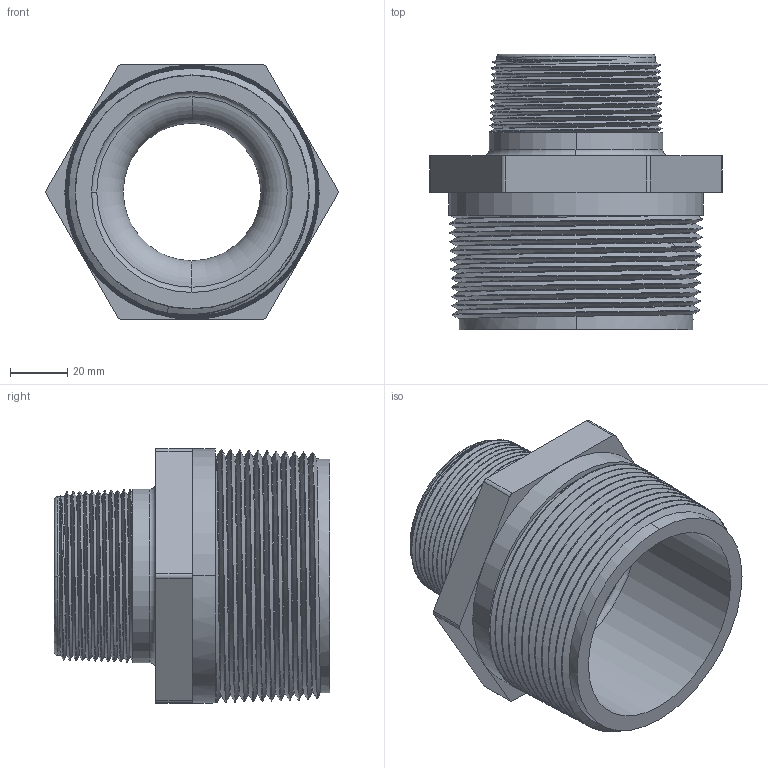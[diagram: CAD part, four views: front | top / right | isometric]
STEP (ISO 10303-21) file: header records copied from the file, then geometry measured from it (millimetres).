
FILE_DESCRIPTION(/* description */ ('Alibre Inc.'),/* implementation_level */ '2;1');
FILE_NAME(/* name */ 'export0',/* time_stamp */ '2019-10-08T14:05:22-04:00',/* author */ (''),/* organization */ (''),/* preprocessor_version */ 'ST-DEVELOPER v17',/* originating_system */ 'Alibre',/* authorisation */ '');
FILE_SCHEMA (('CONFIG_CONTROL_DESIGN'));
Length unit declared in the file: inch
Products named in the file (1): 200-05H00A-1000C
Bounding box: 101.73 x 95.85 x 88.5 mm (x, y, z)
Volume: 179002.9 mm3; surface area: 60659.3 mm2
Topology: 1 solids, 1 shells, 111 faces, 297 edges, 186 vertices
Faces by surface type: cone 46, bspline 26, plane 17, cylinder 14, torus 8
Entity records: 30409 total; most frequent: CARTESIAN_POINT 28212, ORIENTED_EDGE 584, EDGE_CURVE 292, DIRECTION 233, VERTEX_POINT 186, B_SPLINE_CURVE_WITH_KNOTS 155, EDGE_LOOP 116, FACE_BOUND 116
